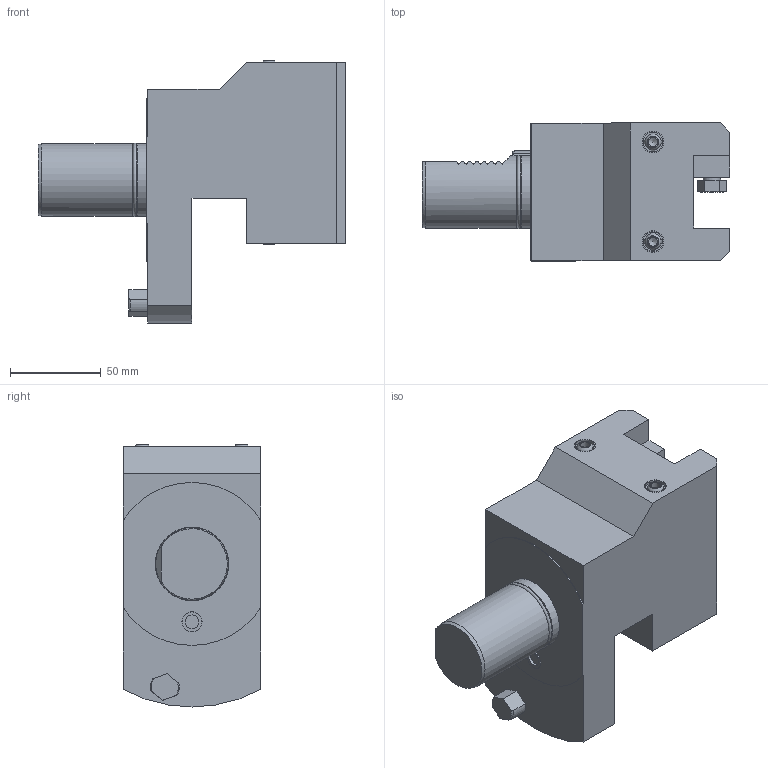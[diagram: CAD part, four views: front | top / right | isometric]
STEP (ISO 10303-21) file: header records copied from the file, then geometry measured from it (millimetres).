
FILE_DESCRIPTION(/* description */ (''),/* implementation_level */ '2;1');
FILE_NAME(/* name */ '117992',/* time_stamp */ '2020-11-16T15:10:10+01:00',/* author */ (''),/* organization */ (''),/* preprocessor_version */ 'ST-DEVELOPER v16.5',/* originating_system */ 'HiCAD 2017 2201.0 Build 268',/* authorisation */ '');
FILE_SCHEMA (('AUTOMOTIVE_DESIGN { 1 0 10303 214 1 1 1 1 }'));
Length unit declared in the file: millimetre
Products named in the file (39): Root; Leeres Teil; 197277_SPRITZDUESE TIKT M12X1-M6_350; DIN 13-M12x1; 113942_O-Ring 36x2_330; 173501_Kantsealring 7.65x1.68_331; KUGEL_0; DIN 13-M6; DIN 912      (Innensechskant)_Zylinderschraube 6x20_400*; GEWINDE; 001_000X_130*; DIN 13-M12; 00087070_120; 00021672_120*; ZYLINDER_0; DIN 76-M12x1
Assembly tree (38 placements, depth 6):
  Root
    Leeres Teil
      Leeres Teil
        Leeres Teil
          197277_SPRITZDUESE TIKT M12X1-M6_350
            DIN 13-M12x1
          197277_SPRITZDUESE TIKT M12X1-M6_350
            DIN 13-M12x1
          197277_SPRITZDUESE TIKT M12X1-M6_350
            DIN 13-M12x1
          197277_SPRITZDUESE TIKT M12X1-M6_350
            DIN 13-M12x1
        113942_O-Ring 36x2_330
        173501_Kantsealring 7.65x1.68_331
        KUGEL_0
          DIN 13-M6
        KUGEL_0
          DIN 13-M6
        KUGEL_0
          DIN 13-M6
        KUGEL_0
          DIN 13-M6
        Leeres Teil
          DIN 912      (Innensechskant)_Zylinderschraube 6x20_400*
            GEWINDE
          DIN 912      (Innensechskant)_Zylinderschraube 6x20_400*
            GEWINDE
      Leeres Teil
        001_000X_130*
          DIN 13-M12
        001_000X_130*
          DIN 13-M12
        001_000X_130*
          DIN 13-M12
      00087070_120
      00021672_120*
      ZYLINDER_0
        DIN 76-M12x1
        DIN 76-M12x1
Bounding box: 170 x 76 x 144.66 mm (x, y, z)
Volume: 814442.3 mm3; surface area: 90397.3 mm2
Topology: 30 solids, 30 shells, 401 faces, 1016 edges, 670 vertices
Faces by surface type: plane 263, cylinder 69, cone 55, sphere 8, torus 6
Full cylindrical faces by diameter (mm): 5 x4, 6 x8, 7.65 x1, 9.6 x3, 9.92 x4, 10 x2, 11 x18, 11.01 x1, 11.1 x1, 12 x12, 36.5 x1, 40 x2
Entity records: 23613 total; most frequent: CARTESIAN_POINT 4700, DIRECTION 2264, PRESENTATION_STYLE_ASSIGNMENT 1768, COLOUR_RGB 1744, DRAUGHTING_PRE_DEFINED_CURVE_FONT 1740, CURVE_STYLE 1740, OVER_RIDING_STYLED_ITEM 1740, ORIENTED_EDGE 1740
